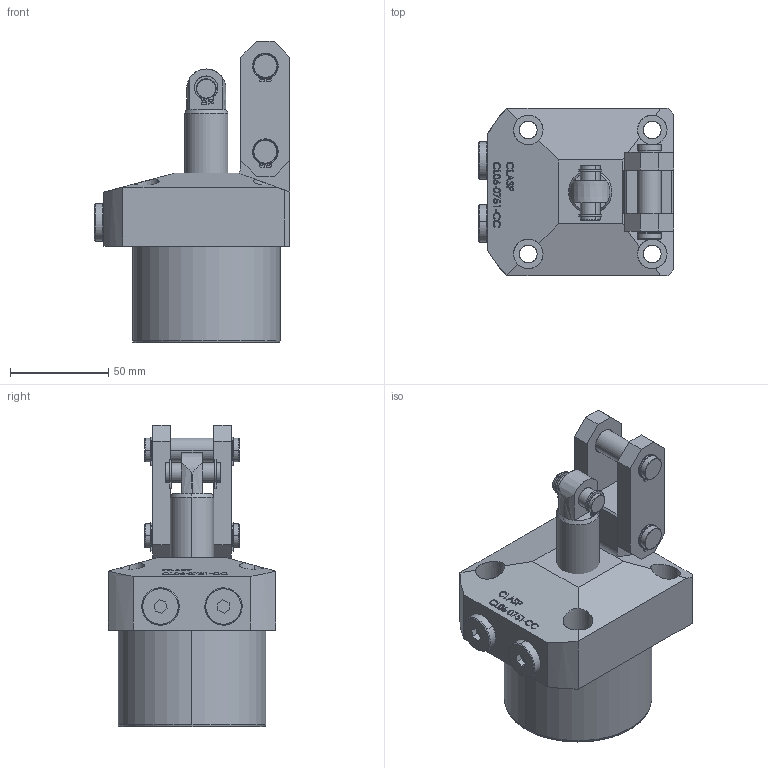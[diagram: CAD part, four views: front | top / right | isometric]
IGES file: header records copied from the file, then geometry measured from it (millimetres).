
Start section: SolidWorks IGES file using analytic representation for surfaces
Global section: file name: D:\karuppas\Clasp\3D model\Link clamp cylinder\CL06-0750  CC\CL06-0750cc.IGS; native system: SolidWorks 2017; preprocessor: SolidWorks 2017; author: pc; date: 220705.231056; units: millimetre
Bounding box: 99.5 x 85 x 153 mm (x, y, z)
Surface area: 70087 mm2 (no closed solid volume)
Topology: 0 solids, 0 shells, 541 faces, 8164 edges, 8160 vertices
Faces by surface type: bspline 322, revolution 219
